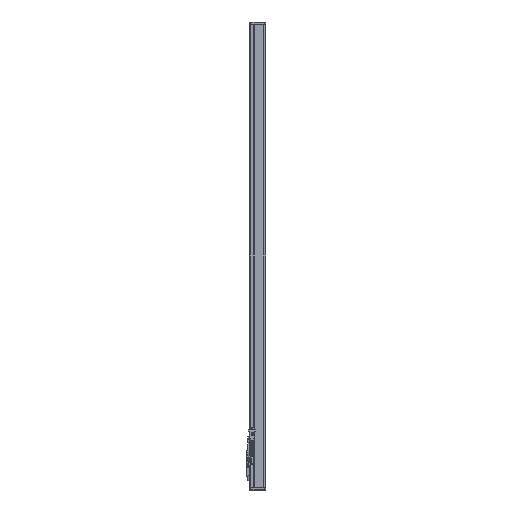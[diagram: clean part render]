
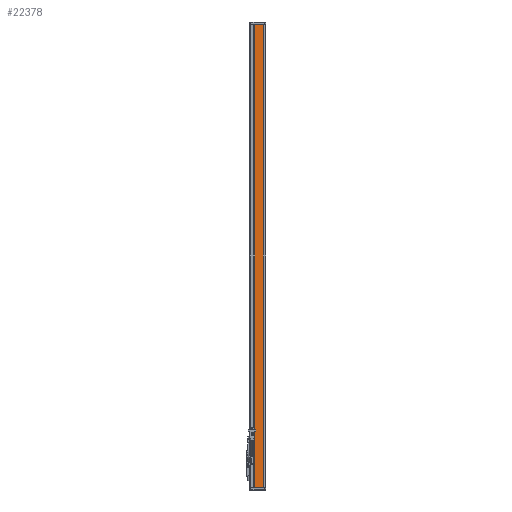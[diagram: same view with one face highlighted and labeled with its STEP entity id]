
A CAD part, left-side view. The second image highlights one B-rep face of the part: STEP entity #22378.
In plain terms, the highlighted planar face has unit normal (-1, 0, 0).
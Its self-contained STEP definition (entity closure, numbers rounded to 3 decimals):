
#144 = PLANE('',#145);
#145 = AXIS2_PLACEMENT_3D('',#146,#147,#148);
#146 = CARTESIAN_POINT('',(-36.5,59.6,1840.));
#147 = DIRECTION('',(0.,0.,1.));
#148 = DIRECTION('',(1.,0.,-0.));
#809 = PLANE('',#810);
#810 = AXIS2_PLACEMENT_3D('',#811,#812,#813);
#811 = CARTESIAN_POINT('',(-36.5,59.6,0.));
#812 = DIRECTION('',(0.,0.,1.));
#813 = DIRECTION('',(1.,0.,-0.));
#14593 = VERTEX_POINT('',#14594);
#14594 = CARTESIAN_POINT('',(-40.5,43.6,1840.));
#14608 = PLANE('',#14609);
#14609 = AXIS2_PLACEMENT_3D('',#14610,#14611,#14612);
#14610 = CARTESIAN_POINT('',(-40.,43.6,1840.));
#14611 = DIRECTION('',(0.,1.,0.));
#14612 = DIRECTION('',(0.,-0.,1.));
#14620 = EDGE_CURVE('',#14593,#14621,#14623,.T.);
#14621 = VERTEX_POINT('',#14622);
#14622 = CARTESIAN_POINT('',(-40.5,11.,1840.));
#14623 = SURFACE_CURVE('',#14624,(#14628,#14635),.PCURVE_S1.);
#14624 = LINE('',#14625,#14626);
#14625 = CARTESIAN_POINT('',(-40.5,19.,1840.));
#14626 = VECTOR('',#14627,1.);
#14627 = DIRECTION('',(0.,-1.,0.));
#14628 = PCURVE('',#144,#14629);
#14629 = DEFINITIONAL_REPRESENTATION('',(#14630),#14634);
#14630 = LINE('',#14631,#14632);
#14631 = CARTESIAN_POINT('',(-4.,-40.6));
#14632 = VECTOR('',#14633,1.);
#14633 = DIRECTION('',(0.,-1.));
#14634 = ( GEOMETRIC_REPRESENTATION_CONTEXT(2) 
PARAMETRIC_REPRESENTATION_CONTEXT() REPRESENTATION_CONTEXT('2D SPACE',''
  ) );
#14635 = PCURVE('',#14636,#14641);
#14636 = PLANE('',#14637);
#14637 = AXIS2_PLACEMENT_3D('',#14638,#14639,#14640);
#14638 = CARTESIAN_POINT('',(-40.5,19.,1840.));
#14639 = DIRECTION('',(1.,0.,-0.));
#14640 = DIRECTION('',(-0.,0.,-1.));
#14641 = DEFINITIONAL_REPRESENTATION('',(#14642),#14646);
#14642 = LINE('',#14643,#14644);
#14643 = CARTESIAN_POINT('',(0.,0.));
#14644 = VECTOR('',#14645,1.);
#14645 = DIRECTION('',(-0.,-1.));
#14646 = ( GEOMETRIC_REPRESENTATION_CONTEXT(2) 
PARAMETRIC_REPRESENTATION_CONTEXT() REPRESENTATION_CONTEXT('2D SPACE',''
  ) );
#14664 = PLANE('',#14665);
#14665 = AXIS2_PLACEMENT_3D('',#14666,#14667,#14668);
#14666 = CARTESIAN_POINT('',(-41.,10.5,1840.));
#14667 = DIRECTION('',(0.707,-0.707,0.));
#14668 = DIRECTION('',(0.707,0.707,0.));
#16010 = VERTEX_POINT('',#16011);
#16011 = CARTESIAN_POINT('',(-40.5,11.,0.));
#16032 = EDGE_CURVE('',#16033,#16010,#16035,.T.);
#16033 = VERTEX_POINT('',#16034);
#16034 = CARTESIAN_POINT('',(-40.5,43.6,0.));
#16035 = SURFACE_CURVE('',#16036,(#16040,#16047),.PCURVE_S1.);
#16036 = LINE('',#16037,#16038);
#16037 = CARTESIAN_POINT('',(-40.5,19.,0.));
#16038 = VECTOR('',#16039,1.);
#16039 = DIRECTION('',(0.,-1.,0.));
#16040 = PCURVE('',#809,#16041);
#16041 = DEFINITIONAL_REPRESENTATION('',(#16042),#16046);
#16042 = LINE('',#16043,#16044);
#16043 = CARTESIAN_POINT('',(-4.,-40.6));
#16044 = VECTOR('',#16045,1.);
#16045 = DIRECTION('',(0.,-1.));
#16046 = ( GEOMETRIC_REPRESENTATION_CONTEXT(2) 
PARAMETRIC_REPRESENTATION_CONTEXT() REPRESENTATION_CONTEXT('2D SPACE',''
  ) );
#16047 = PCURVE('',#14636,#16048);
#16048 = DEFINITIONAL_REPRESENTATION('',(#16049),#16053);
#16049 = LINE('',#16050,#16051);
#16050 = CARTESIAN_POINT('',(1840.,0.));
#16051 = VECTOR('',#16052,1.);
#16052 = DIRECTION('',(-0.,-1.));
#16053 = ( GEOMETRIC_REPRESENTATION_CONTEXT(2) 
PARAMETRIC_REPRESENTATION_CONTEXT() REPRESENTATION_CONTEXT('2D SPACE',''
  ) );
#19299 = EDGE_CURVE('',#14621,#16010,#19300,.T.);
#19300 = SURFACE_CURVE('',#19301,(#19305,#19312),.PCURVE_S1.);
#19301 = LINE('',#19302,#19303);
#19302 = CARTESIAN_POINT('',(-40.5,11.,1840.));
#19303 = VECTOR('',#19304,1.);
#19304 = DIRECTION('',(-0.,-0.,-1.));
#19305 = PCURVE('',#14664,#19306);
#19306 = DEFINITIONAL_REPRESENTATION('',(#19307),#19311);
#19307 = LINE('',#19308,#19309);
#19308 = CARTESIAN_POINT('',(0.707,0.));
#19309 = VECTOR('',#19310,1.);
#19310 = DIRECTION('',(0.,-1.));
#19311 = ( GEOMETRIC_REPRESENTATION_CONTEXT(2) 
PARAMETRIC_REPRESENTATION_CONTEXT() REPRESENTATION_CONTEXT('2D SPACE',''
  ) );
#19312 = PCURVE('',#14636,#19313);
#19313 = DEFINITIONAL_REPRESENTATION('',(#19314),#19318);
#19314 = LINE('',#19315,#19316);
#19315 = CARTESIAN_POINT('',(-0.,-8.));
#19316 = VECTOR('',#19317,1.);
#19317 = DIRECTION('',(1.,-0.));
#19318 = ( GEOMETRIC_REPRESENTATION_CONTEXT(2) 
PARAMETRIC_REPRESENTATION_CONTEXT() REPRESENTATION_CONTEXT('2D SPACE',''
  ) );
#22378 = ADVANCED_FACE('',(#22379),#14636,.F.);
#22379 = FACE_BOUND('',#22380,.T.);
#22380 = EDGE_LOOP('',(#22381,#22382,#22383,#22384));
#22381 = ORIENTED_EDGE('',*,*,#16032,.T.);
#22382 = ORIENTED_EDGE('',*,*,#19299,.F.);
#22383 = ORIENTED_EDGE('',*,*,#14620,.F.);
#22384 = ORIENTED_EDGE('',*,*,#22385,.F.);
#22385 = EDGE_CURVE('',#16033,#14593,#22386,.T.);
#22386 = SURFACE_CURVE('',#22387,(#22391,#22398),.PCURVE_S1.);
#22387 = LINE('',#22388,#22389);
#22388 = CARTESIAN_POINT('',(-40.5,43.6,1840.));
#22389 = VECTOR('',#22390,1.);
#22390 = DIRECTION('',(0.,0.,1.));
#22391 = PCURVE('',#14636,#22392);
#22392 = DEFINITIONAL_REPRESENTATION('',(#22393),#22397);
#22393 = LINE('',#22394,#22395);
#22394 = CARTESIAN_POINT('',(0.,24.6));
#22395 = VECTOR('',#22396,1.);
#22396 = DIRECTION('',(-1.,0.));
#22397 = ( GEOMETRIC_REPRESENTATION_CONTEXT(2) 
PARAMETRIC_REPRESENTATION_CONTEXT() REPRESENTATION_CONTEXT('2D SPACE',''
  ) );
#22398 = PCURVE('',#14608,#22399);
#22399 = DEFINITIONAL_REPRESENTATION('',(#22400),#22404);
#22400 = LINE('',#22401,#22402);
#22401 = CARTESIAN_POINT('',(0.,-0.5));
#22402 = VECTOR('',#22403,1.);
#22403 = DIRECTION('',(1.,0.));
#22404 = ( GEOMETRIC_REPRESENTATION_CONTEXT(2) 
PARAMETRIC_REPRESENTATION_CONTEXT() REPRESENTATION_CONTEXT('2D SPACE',''
  ) );
